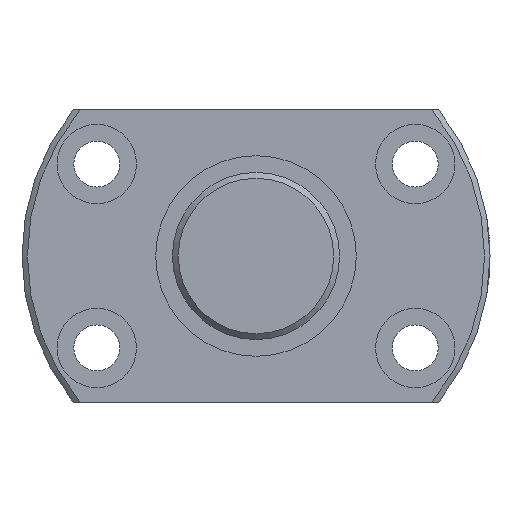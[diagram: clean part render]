
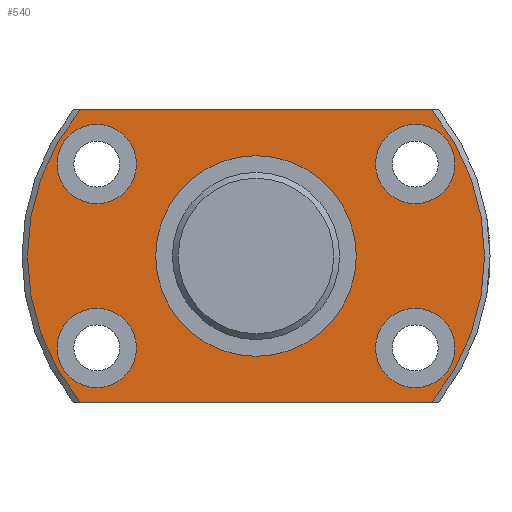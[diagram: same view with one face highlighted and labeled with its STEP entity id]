
A CAD part, left-side view. The second image highlights one B-rep face of the part: STEP entity #540.
In plain terms, the highlighted planar face has unit normal (-1, 0, 0).
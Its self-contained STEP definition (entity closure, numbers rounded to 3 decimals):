
#28=LINE('',#893,#36);
#29=LINE('',#898,#37);
#36=VECTOR('',#721,1000.);
#37=VECTOR('',#724,1000.);
#91=ORIENTED_EDGE('',*,*,#207,.T.);
#92=ORIENTED_EDGE('',*,*,#208,.T.);
#93=ORIENTED_EDGE('',*,*,#209,.T.);
#94=ORIENTED_EDGE('',*,*,#210,.T.);
#95=ORIENTED_EDGE('',*,*,#211,.T.);
#96=ORIENTED_EDGE('',*,*,#212,.F.);
#97=ORIENTED_EDGE('',*,*,#213,.T.);
#98=ORIENTED_EDGE('',*,*,#214,.F.);
#99=ORIENTED_EDGE('',*,*,#215,.T.);
#207=EDGE_CURVE('',#267,#267,#319,.T.);
#208=EDGE_CURVE('',#268,#268,#320,.T.);
#209=EDGE_CURVE('',#269,#269,#321,.T.);
#210=EDGE_CURVE('',#270,#270,#322,.T.);
#211=EDGE_CURVE('',#271,#271,#323,.T.);
#212=EDGE_CURVE('',#272,#273,#28,.T.);
#213=EDGE_CURVE('',#272,#274,#324,.F.);
#214=EDGE_CURVE('',#275,#274,#29,.T.);
#215=EDGE_CURVE('',#275,#273,#325,.F.);
#267=VERTEX_POINT('',#884);
#268=VERTEX_POINT('',#886);
#269=VERTEX_POINT('',#888);
#270=VERTEX_POINT('',#890);
#271=VERTEX_POINT('',#892);
#272=VERTEX_POINT('',#894);
#273=VERTEX_POINT('',#895);
#274=VERTEX_POINT('',#897);
#275=VERTEX_POINT('',#899);
#319=CIRCLE('',#613,12.);
#320=CIRCLE('',#614,4.75);
#321=CIRCLE('',#615,4.75);
#322=CIRCLE('',#616,4.75);
#323=CIRCLE('',#617,4.75);
#324=CIRCLE('',#618,27.35);
#325=CIRCLE('',#619,27.35);
#365=EDGE_LOOP('',(#91));
#366=EDGE_LOOP('',(#92));
#367=EDGE_LOOP('',(#93));
#368=EDGE_LOOP('',(#94));
#369=EDGE_LOOP('',(#95));
#370=EDGE_LOOP('',(#96,#97,#98,#99));
#447=FACE_BOUND('',#365,.T.);
#448=FACE_BOUND('',#366,.T.);
#449=FACE_BOUND('',#367,.T.);
#450=FACE_BOUND('',#368,.T.);
#451=FACE_BOUND('',#369,.T.);
#452=FACE_BOUND('',#370,.T.);
#523=PLANE('',#612);
#540=ADVANCED_FACE('',(#447,#448,#449,#450,#451,#452),#523,.F.);
#612=AXIS2_PLACEMENT_3D('',#882,#709,#710);
#613=AXIS2_PLACEMENT_3D('',#883,#711,#712);
#614=AXIS2_PLACEMENT_3D('',#885,#713,#714);
#615=AXIS2_PLACEMENT_3D('',#887,#715,#716);
#616=AXIS2_PLACEMENT_3D('',#889,#717,#718);
#617=AXIS2_PLACEMENT_3D('',#891,#719,#720);
#618=AXIS2_PLACEMENT_3D('',#896,#722,#723);
#619=AXIS2_PLACEMENT_3D('',#900,#725,#726);
#709=DIRECTION('',(1.,0.,0.));
#710=DIRECTION('',(0.,0.,-1.));
#711=DIRECTION('',(1.,0.,0.));
#712=DIRECTION('',(0.,0.,-1.));
#713=DIRECTION('',(1.,0.,0.));
#714=DIRECTION('',(0.,0.,-1.));
#715=DIRECTION('',(1.,0.,0.));
#716=DIRECTION('',(0.,0.,-1.));
#717=DIRECTION('',(1.,0.,0.));
#718=DIRECTION('',(0.,0.,-1.));
#719=DIRECTION('',(1.,0.,0.));
#720=DIRECTION('',(0.,0.,-1.));
#721=DIRECTION('',(0.,1.,0.));
#722=DIRECTION('',(1.,0.,0.));
#723=DIRECTION('',(0.,0.,-1.));
#724=DIRECTION('',(0.,-1.,0.));
#725=DIRECTION('',(1.,0.,0.));
#726=DIRECTION('',(0.,0.,-1.));
#882=CARTESIAN_POINT('',(0.,0.,0.));
#883=CARTESIAN_POINT('',(0.,0.,0.));
#884=CARTESIAN_POINT('',(0.,0.,-12.));
#885=CARTESIAN_POINT('',(0.,19.053,11.));
#886=CARTESIAN_POINT('',(0.,19.053,6.25));
#887=CARTESIAN_POINT('',(0.,-19.053,-11.));
#888=CARTESIAN_POINT('',(0.,-19.053,-15.75));
#889=CARTESIAN_POINT('',(0.,19.053,-11.));
#890=CARTESIAN_POINT('',(0.,19.053,-15.75));
#891=CARTESIAN_POINT('',(0.,-19.053,11.));
#892=CARTESIAN_POINT('',(0.,-19.053,6.25));
#893=CARTESIAN_POINT('',(0.,-21.857,-17.5));
#894=CARTESIAN_POINT('',(0.,-21.018,-17.5));
#895=CARTESIAN_POINT('',(0.,21.018,-17.5));
#896=CARTESIAN_POINT('',(0.,0.,0.));
#897=CARTESIAN_POINT('',(0.,-21.018,17.5));
#898=CARTESIAN_POINT('',(0.,21.857,17.5));
#899=CARTESIAN_POINT('',(0.,21.018,17.5));
#900=CARTESIAN_POINT('',(0.,0.,0.));
